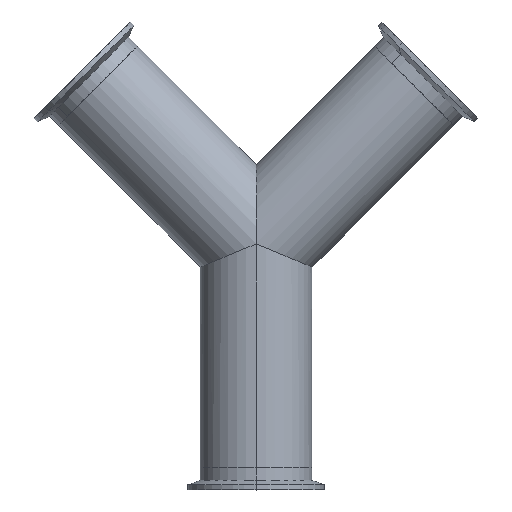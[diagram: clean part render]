
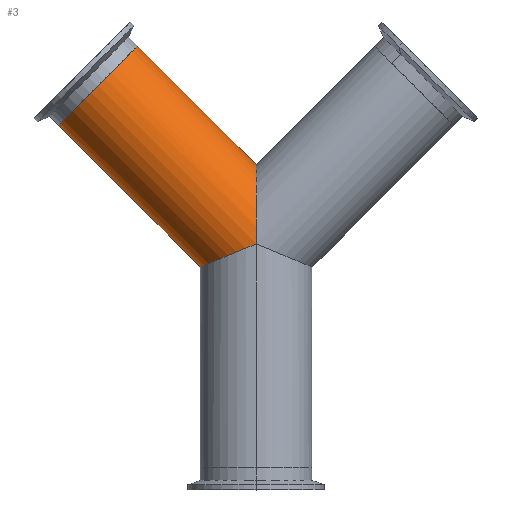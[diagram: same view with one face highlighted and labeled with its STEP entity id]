
A CAD part, top view. The second image highlights one B-rep face of the part: STEP entity #3.
In plain terms, the highlighted cylindrical face has radius 31.75 mm (diameter 63.5 mm), a partial arc.
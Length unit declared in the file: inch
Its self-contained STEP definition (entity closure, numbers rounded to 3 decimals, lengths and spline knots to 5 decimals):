
#3 = ADVANCED_FACE ( 'NONE', ( #392 ), #704, .T. ) ;
#58 = DIRECTION ( 'NONE',  ( -0.707, 0.707, 0. ) ) ;
#74 = CARTESIAN_POINT ( 'NONE',  ( 0., 6.03553, 1.25 ) ) ;
#162 = ORIENTED_EDGE ( 'NONE', *, *, #465, .F. ) ;
#192 = DIRECTION ( 'NONE',  ( -0.707, -0.707, 0. ) ) ;
#197 = AXIS2_PLACEMENT_3D ( 'NONE', #672, #1274, #1280 ) ;
#210 = EDGE_LOOP ( 'NONE', ( #661, #771, #947, #236, #162 ) ) ;
#236 = ORIENTED_EDGE ( 'NONE', *, *, #1152, .F. ) ;
#244 = CARTESIAN_POINT ( 'NONE',  ( -1.25, 4.48223, 0.73223 ) ) ;
#298 = VERTEX_POINT ( 'NONE', #736 ) ;
#356 = CARTESIAN_POINT ( 'NONE',  ( -0.73223, 4.6967, 1.25 ) ) ;
#392 = FACE_OUTER_BOUND ( 'NONE', #210, .T. ) ;
#465 = EDGE_CURVE ( 'NONE', #485, #542, #811, .T. ) ;
#478 = CARTESIAN_POINT ( 'NONE',  ( 0., 6.76777, 0.73223 ) ) ;
#485 = VERTEX_POINT ( 'NONE', #1272 ) ;
#542 = VERTEX_POINT ( 'NONE', #1196 ) ;
#567 = CARTESIAN_POINT ( 'NONE',  ( 0., 5., 1.25 ) ) ;
#610 = LINE ( 'NONE', #800, #1162 ) ;
#635 = VERTEX_POINT ( 'NONE', #690 ) ;
#661 = ORIENTED_EDGE ( 'NONE', *, *, #994, .T. ) ;
#672 = CARTESIAN_POINT ( 'NONE',  ( -3.53553, 8.53553, 0. ) ) ;
#689 =( BOUNDED_CURVE ( )  B_SPLINE_CURVE ( 3, ( #980, #74, #478, #1083 ),
 .UNSPECIFIED., .F., .F. ) 
 B_SPLINE_CURVE_WITH_KNOTS ( ( 4, 4 ),
 ( 4.71239, 6.28319 ),
 .UNSPECIFIED. ) 
 CURVE ( )  GEOMETRIC_REPRESENTATION_ITEM ( )  RATIONAL_B_SPLINE_CURVE ( ( 1., 0.805, 0.805, 1. ) ) 
 REPRESENTATION_ITEM ( '' )  );
#690 = CARTESIAN_POINT ( 'NONE',  ( -4.41942, 7.65165, 0. ) ) ;
#704 = CYLINDRICAL_SURFACE ( 'NONE', #1197, 1.25 ) ;
#707 = DIRECTION ( 'NONE',  ( -0.707, 0.707, 0. ) ) ;
#736 = CARTESIAN_POINT ( 'NONE',  ( -2.65165, 9.41942, 0. ) ) ;
#739 = LINE ( 'NONE', #1133, #760 ) ;
#760 = VECTOR ( 'NONE', #58, 39.37008 ) ;
#771 = ORIENTED_EDGE ( 'NONE', *, *, #814, .T. ) ;
#781 = CIRCLE ( 'NONE', #197, 1.25 ) ;
#800 = CARTESIAN_POINT ( 'NONE',  ( -0.88388, 4.11612, 0. ) ) ;
#811 =( BOUNDED_CURVE ( )  B_SPLINE_CURVE ( 3, ( #567, #356, #244, #1051 ),
 .UNSPECIFIED., .F., .T. ) 
 B_SPLINE_CURVE_WITH_KNOTS ( ( 4, 4 ),
 ( 4.71239, 6.28319 ),
 .UNSPECIFIED. ) 
 CURVE ( )  GEOMETRIC_REPRESENTATION_ITEM ( )  RATIONAL_B_SPLINE_CURVE ( ( 1., 0.805, 0.805, 1. ) ) 
 REPRESENTATION_ITEM ( '' )  );
#814 = EDGE_CURVE ( 'NONE', #990, #298, #739, .T. ) ;
#838 = EDGE_CURVE ( 'NONE', #635, #298, #781, .T. ) ;
#947 = ORIENTED_EDGE ( 'NONE', *, *, #838, .F. ) ;
#980 = CARTESIAN_POINT ( 'NONE',  ( 0., 5., 1.25 ) ) ;
#983 = DIRECTION ( 'NONE',  ( -0.707, 0.707, 0. ) ) ;
#990 = VERTEX_POINT ( 'NONE', #1077 ) ;
#994 = EDGE_CURVE ( 'NONE', #485, #990, #689, .T. ) ;
#1051 = CARTESIAN_POINT ( 'NONE',  ( -1.25, 4.48223, 0. ) ) ;
#1077 = CARTESIAN_POINT ( 'NONE',  ( 0., 6.76777, 0. ) ) ;
#1083 = CARTESIAN_POINT ( 'NONE',  ( 0., 6.76777, 0. ) ) ;
#1099 = CARTESIAN_POINT ( 'NONE',  ( 0., 5., 0. ) ) ;
#1133 = CARTESIAN_POINT ( 'NONE',  ( 0.88388, 5.88388, 0. ) ) ;
#1152 = EDGE_CURVE ( 'NONE', #542, #635, #610, .T. ) ;
#1162 = VECTOR ( 'NONE', #707, 39.37008 ) ;
#1196 = CARTESIAN_POINT ( 'NONE',  ( -1.25, 4.48223, 0. ) ) ;
#1197 = AXIS2_PLACEMENT_3D ( 'NONE', #1099, #983, #192 ) ;
#1272 = CARTESIAN_POINT ( 'NONE',  ( 0., 5., 1.25 ) ) ;
#1274 = DIRECTION ( 'NONE',  ( -0.707, 0.707, 0. ) ) ;
#1280 = DIRECTION ( 'NONE',  ( -0.707, -0.707, 0. ) ) ;
